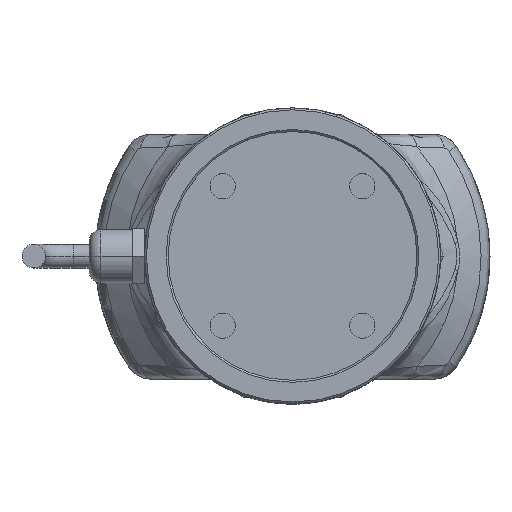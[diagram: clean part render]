
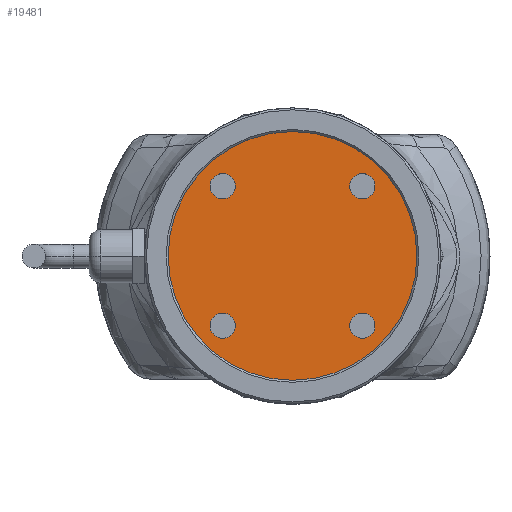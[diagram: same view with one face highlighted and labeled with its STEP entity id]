
A CAD part, top view. The second image highlights one B-rep face of the part: STEP entity #19481.
In plain terms, the highlighted planar face has unit normal (0, 0, 1).
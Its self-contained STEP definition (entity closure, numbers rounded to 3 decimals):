
#557 = VERTEX_POINT ( 'NONE', #14919 ) ;
#1418 = DIRECTION ( 'NONE',  ( 0., 1., 0. ) ) ;
#2651 = CARTESIAN_POINT ( 'NONE',  ( 201.356, -18.703, 71.347 ) ) ;
#3475 = CARTESIAN_POINT ( 'NONE',  ( 201.356, 16.652, 71.347 ) ) ;
#4277 = DIRECTION ( 'NONE',  ( 0., 1., 0. ) ) ;
#4628 = CIRCLE ( 'NONE', #16403, 31.5 ) ;
#5629 = ORIENTED_EDGE ( 'NONE', *, *, #34162, .F. ) ;
#5702 = CIRCLE ( 'NONE', #45297, 3.2 ) ;
#7173 = DIRECTION ( 'NONE',  ( 0., 0., 1. ) ) ;
#7342 = VERTEX_POINT ( 'NONE', #31051 ) ;
#10348 = DIRECTION ( 'NONE',  ( 0., 1., 0. ) ) ;
#11181 = DIRECTION ( 'NONE',  ( 0., 1., 0. ) ) ;
#12438 = CIRCLE ( 'NONE', #51860, 3.2 ) ;
#13934 = DIRECTION ( 'NONE',  ( 0., 0., 1. ) ) ;
#14148 = DIRECTION ( 'NONE',  ( 0., 0., 1. ) ) ;
#14919 = CARTESIAN_POINT ( 'NONE',  ( 201.356, 19.852, 71.347 ) ) ;
#15008 = CIRCLE ( 'NONE', #52506, 31.5 ) ;
#16403 = AXIS2_PLACEMENT_3D ( 'NONE', #41543, #95339, #49277 ) ;
#16698 = EDGE_CURVE ( 'NONE', #52703, #59800, #5702, .T. ) ;
#18582 = EDGE_CURVE ( 'NONE', #59800, #52703, #28903, .T. ) ;
#18624 = ORIENTED_EDGE ( 'NONE', *, *, #72495, .F. ) ;
#18960 = EDGE_LOOP ( 'NONE', ( #91460, #47589 ) ) ;
#19481 = ADVANCED_FACE ( 'NONE', ( #31612, #34061, #52013, #74836, #54396 ), #41085, .T. ) ;
#20034 = AXIS2_PLACEMENT_3D ( 'NONE', #60022, #14148, #67767 ) ;
#20123 = CARTESIAN_POINT ( 'NONE',  ( 236.711, -21.903, 71.347 ) ) ;
#20859 = VERTEX_POINT ( 'NONE', #39138 ) ;
#23861 = CIRCLE ( 'NONE', #35999, 3.2 ) ;
#27640 = AXIS2_PLACEMENT_3D ( 'NONE', #2651, #56177, #10348 ) ;
#28903 = CIRCLE ( 'NONE', #87980, 3.2 ) ;
#29266 = EDGE_CURVE ( 'NONE', #43598, #97513, #53798, .T. ) ;
#31051 = CARTESIAN_POINT ( 'NONE',  ( 201.356, 13.452, 71.347 ) ) ;
#31612 = FACE_BOUND ( 'NONE', #53764, .T. ) ;
#32144 = AXIS2_PLACEMENT_3D ( 'NONE', #3475, #57008, #11181 ) ;
#34061 = FACE_BOUND ( 'NONE', #35687, .T. ) ;
#34069 = CARTESIAN_POINT ( 'NONE',  ( 219.033, -1.025, 71.347 ) ) ;
#34162 = EDGE_CURVE ( 'NONE', #20859, #96525, #46773, .T. ) ;
#35687 = EDGE_LOOP ( 'NONE', ( #18624, #5629 ) ) ;
#35999 = AXIS2_PLACEMENT_3D ( 'NONE', #59811, #13934, #67550 ) ;
#37673 = CARTESIAN_POINT ( 'NONE',  ( 201.356, -21.903, 71.347 ) ) ;
#37950 = EDGE_CURVE ( 'NONE', #97513, #43598, #12438, .T. ) ;
#39138 = CARTESIAN_POINT ( 'NONE',  ( 201.356, -15.503, 71.347 ) ) ;
#39206 = CARTESIAN_POINT ( 'NONE',  ( 236.711, 16.652, 71.347 ) ) ;
#39720 = EDGE_CURVE ( 'NONE', #557, #7342, #23861, .T. ) ;
#41085 = PLANE ( 'NONE',  #73238 ) ;
#41543 = CARTESIAN_POINT ( 'NONE',  ( 219.033, -1.025, 71.347 ) ) ;
#41754 = DIRECTION ( 'NONE',  ( 0., 1., 0. ) ) ;
#43598 = VERTEX_POINT ( 'NONE', #90555 ) ;
#43757 = DIRECTION ( 'NONE',  ( 0., 0., 1. ) ) ;
#45297 = AXIS2_PLACEMENT_3D ( 'NONE', #96223, #50149, #4277 ) ;
#46773 = CIRCLE ( 'NONE', #20034, 3.2 ) ;
#46904 = DIRECTION ( 'NONE',  ( 0., 1., 0. ) ) ;
#47261 = DIRECTION ( 'NONE',  ( 0., 0., 1. ) ) ;
#47589 = ORIENTED_EDGE ( 'NONE', *, *, #29266, .F. ) ;
#49277 = DIRECTION ( 'NONE',  ( 0., 1., 0. ) ) ;
#50149 = DIRECTION ( 'NONE',  ( 0., 0., 1. ) ) ;
#51860 = AXIS2_PLACEMENT_3D ( 'NONE', #53035, #7173, #60745 ) ;
#52013 = FACE_BOUND ( 'NONE', #18960, .T. ) ;
#52437 = ORIENTED_EDGE ( 'NONE', *, *, #88681, .T. ) ;
#52506 = AXIS2_PLACEMENT_3D ( 'NONE', #93341, #47261, #1418 ) ;
#52703 = VERTEX_POINT ( 'NONE', #96127 ) ;
#53035 = CARTESIAN_POINT ( 'NONE',  ( 236.711, -18.703, 71.347 ) ) ;
#53764 = EDGE_LOOP ( 'NONE', ( #83863, #73573 ) ) ;
#53798 = CIRCLE ( 'NONE', #70601, 3.2 ) ;
#54396 = FACE_OUTER_BOUND ( 'NONE', #90740, .T. ) ;
#56177 = DIRECTION ( 'NONE',  ( 0., 0., 1. ) ) ;
#57008 = DIRECTION ( 'NONE',  ( 0., 0., 1. ) ) ;
#58323 = CARTESIAN_POINT ( 'NONE',  ( 219.033, -32.525, 71.347 ) ) ;
#59800 = VERTEX_POINT ( 'NONE', #64499 ) ;
#59811 = CARTESIAN_POINT ( 'NONE',  ( 201.356, 16.652, 71.347 ) ) ;
#60022 = CARTESIAN_POINT ( 'NONE',  ( 201.356, -18.703, 71.347 ) ) ;
#60745 = DIRECTION ( 'NONE',  ( 0., 1., 0. ) ) ;
#62568 = ORIENTED_EDGE ( 'NONE', *, *, #77849, .T. ) ;
#64499 = CARTESIAN_POINT ( 'NONE',  ( 236.711, 19.852, 71.347 ) ) ;
#67224 = EDGE_CURVE ( 'NONE', #7342, #557, #74309, .T. ) ;
#67550 = DIRECTION ( 'NONE',  ( 0., 1., 0. ) ) ;
#67700 = VERTEX_POINT ( 'NONE', #94253 ) ;
#67767 = DIRECTION ( 'NONE',  ( 0., 1., 0. ) ) ;
#70601 = AXIS2_PLACEMENT_3D ( 'NONE', #89830, #43757, #97564 ) ;
#72495 = EDGE_CURVE ( 'NONE', #96525, #20859, #99247, .T. ) ;
#73238 = AXIS2_PLACEMENT_3D ( 'NONE', #34069, #87775, #41754 ) ;
#73573 = ORIENTED_EDGE ( 'NONE', *, *, #39720, .F. ) ;
#74309 = CIRCLE ( 'NONE', #32144, 3.2 ) ;
#74836 = FACE_BOUND ( 'NONE', #79947, .T. ) ;
#77849 = EDGE_CURVE ( 'NONE', #81098, #67700, #15008, .T. ) ;
#78568 = ORIENTED_EDGE ( 'NONE', *, *, #18582, .F. ) ;
#79885 = ORIENTED_EDGE ( 'NONE', *, *, #16698, .F. ) ;
#79947 = EDGE_LOOP ( 'NONE', ( #79885, #78568 ) ) ;
#81098 = VERTEX_POINT ( 'NONE', #58323 ) ;
#83863 = ORIENTED_EDGE ( 'NONE', *, *, #67224, .F. ) ;
#87775 = DIRECTION ( 'NONE',  ( 0., 0., 1. ) ) ;
#87980 = AXIS2_PLACEMENT_3D ( 'NONE', #39206, #92981, #46904 ) ;
#88681 = EDGE_CURVE ( 'NONE', #67700, #81098, #4628, .T. ) ;
#89830 = CARTESIAN_POINT ( 'NONE',  ( 236.711, -18.703, 71.347 ) ) ;
#90555 = CARTESIAN_POINT ( 'NONE',  ( 236.711, -15.503, 71.347 ) ) ;
#90740 = EDGE_LOOP ( 'NONE', ( #52437, #62568 ) ) ;
#91460 = ORIENTED_EDGE ( 'NONE', *, *, #37950, .F. ) ;
#92981 = DIRECTION ( 'NONE',  ( 0., 0., 1. ) ) ;
#93341 = CARTESIAN_POINT ( 'NONE',  ( 219.033, -1.025, 71.347 ) ) ;
#94253 = CARTESIAN_POINT ( 'NONE',  ( 219.033, 30.475, 71.347 ) ) ;
#95339 = DIRECTION ( 'NONE',  ( 0., 0., 1. ) ) ;
#96127 = CARTESIAN_POINT ( 'NONE',  ( 236.711, 13.452, 71.347 ) ) ;
#96223 = CARTESIAN_POINT ( 'NONE',  ( 236.711, 16.652, 71.347 ) ) ;
#96525 = VERTEX_POINT ( 'NONE', #37673 ) ;
#97513 = VERTEX_POINT ( 'NONE', #20123 ) ;
#97564 = DIRECTION ( 'NONE',  ( 0., 1., 0. ) ) ;
#99247 = CIRCLE ( 'NONE', #27640, 3.2 ) ;
